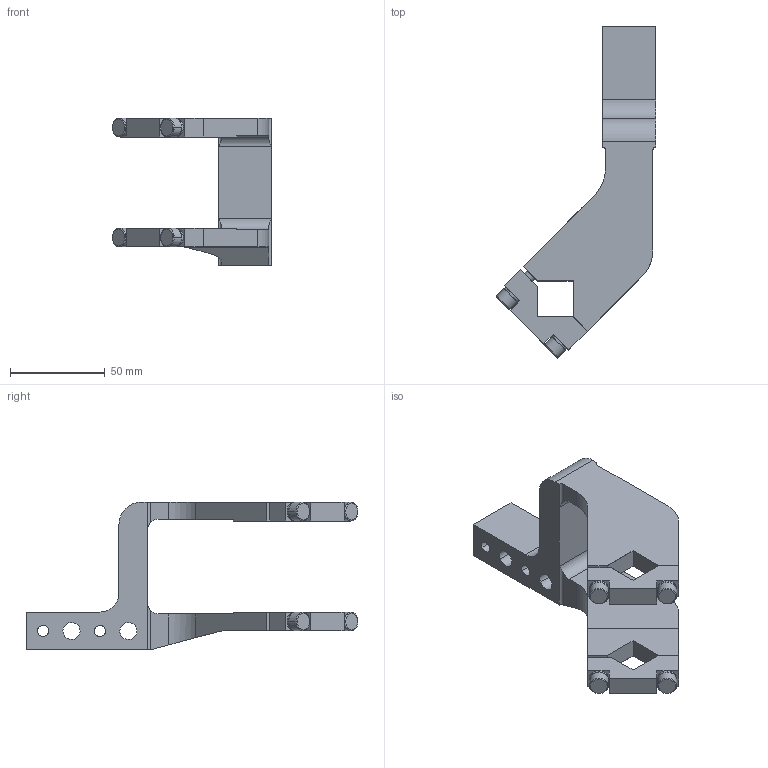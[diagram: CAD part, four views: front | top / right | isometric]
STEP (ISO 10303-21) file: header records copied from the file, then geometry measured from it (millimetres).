
FILE_DESCRIPTION(('CATIA V5 STEP Exchange'),'2;1');
FILE_NAME('E:\clampact\CLAMPACT\clampact\catalog\Clampact Arm\Arm 3D\Clampact Arm\arm_K50_25_A81_Clampact.stp','2022-12-06T07:59:51+00:00',('none'),('none'),'CATIA Version 5 Release 19 SP 6 (IN-10)','CATIA V5 STEP AP203','none');
FILE_SCHEMA(('CONFIG_CONTROL_DESIGN'));
Length unit declared in the file: millimetre
Products named in the file (1): K50_25_A81_Clampact_柯莱普
Bounding box: 84.05 x 175.05 x 78 mm (x, y, z)
Volume: 140031.4 mm3; surface area: 39671 mm2
Topology: 1 solids, 5 shells, 168 faces, 432 edges, 274 vertices
Faces by surface type: plane 82, cylinder 54, cone 20, torus 12
Entity records: 4925 total; most frequent: CARTESIAN_POINT 1102, ORIENTED_EDGE 848, DIRECTION 626, EDGE_CURVE 424, VERTEX_POINT 274, VECTOR 260, LINE 260, AXIS2_PLACEMENT_3D 247
